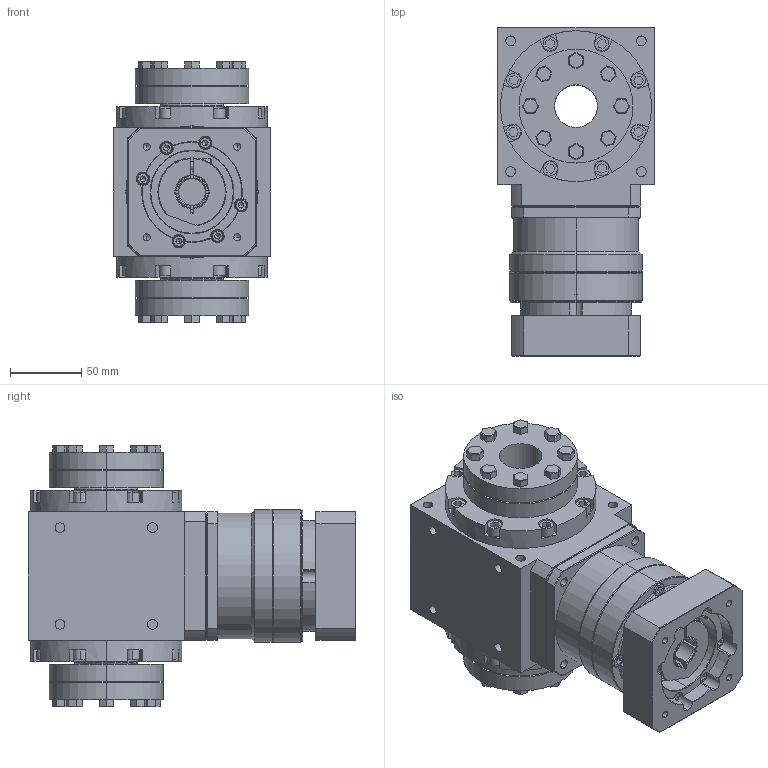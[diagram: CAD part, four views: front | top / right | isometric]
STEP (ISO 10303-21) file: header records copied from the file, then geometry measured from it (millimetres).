
FILE_DESCRIPTION (( 'STEP AP203' ), '1' );
FILE_NAME ('AAW110AS-L1-2HP 19-70-90-M6.STEP', '2024-12-24T02:52:58', ( '' ), ( '' ), 'SwSTEP 2.0', 'SolidWorks 2021', '' );
FILE_SCHEMA (( 'CONFIG_CONTROL_DESIGN' ));
Length unit declared in the file: millimetre
Products named in the file (3): VRB-090-L1-S2-P1 19-70-90-M6; AAW110AS-L1-2HP 19-70-90-M6; AAW110AS-2HP
Assembly tree (2 placements, depth 2):
  AAW110AS-L1-2HP 19-70-90-M6
    AAW110AS-2HP
    VRB-090-L1-S2-P1 19-70-90-M6
Bounding box: 110 x 230.5 x 184 mm (x, y, z)
Volume: 2176002.1 mm3; surface area: 251843.4 mm2
Topology: 28 solids, 28 shells, 1233 faces, 2993 edges, 1886 vertices
Faces by surface type: plane 688, cylinder 366, cone 149, torus 26, bspline 4
Entity records: 37046 total; most frequent: CARTESIAN_POINT 7518, DIRECTION 6307, ORIENTED_EDGE 5882, EDGE_CURVE 2941, AXIS2_PLACEMENT_3D 2293, VERTEX_POINT 1886, VECTOR 1721, LINE 1721
